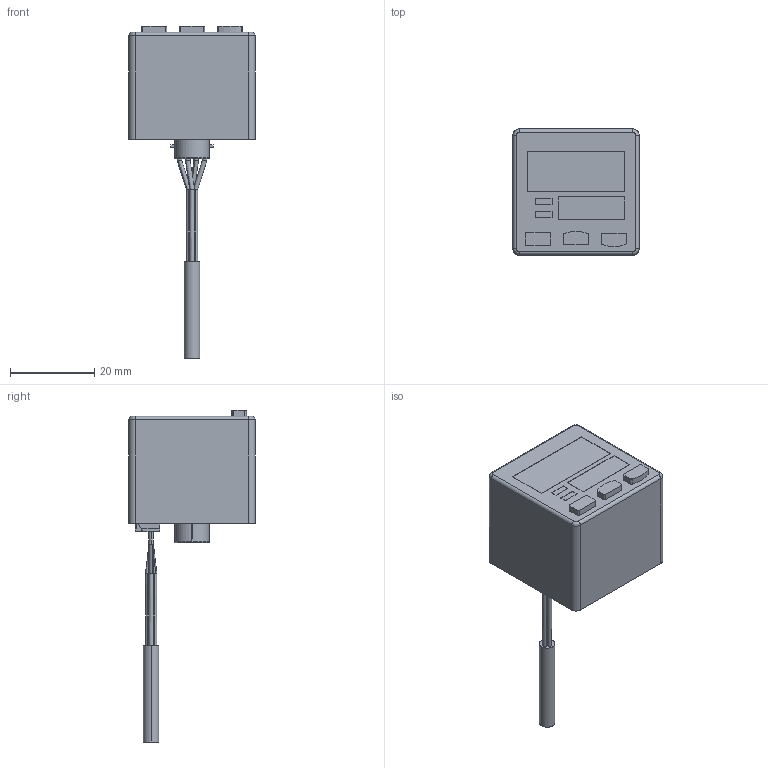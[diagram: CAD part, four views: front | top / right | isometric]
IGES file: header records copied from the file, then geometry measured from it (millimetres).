
Start section: SolidWorks IGES file using analytic representation for surfaces
Global section: file name: C:\catalog\dp-101-m.IGS; native system: SolidWorks 2010; preprocessor: SolidWorks 2010; author: hi1633; date: 141104.100451; units: millimetre
Bounding box: 30 x 30 x 78.9 mm (x, y, z)
Surface area: 6426.3 mm2 (no closed solid volume)
Topology: 0 solids, 0 shells, 225 faces, 1700 edges, 1700 vertices
Faces by surface type: bspline 175, revolution 50
